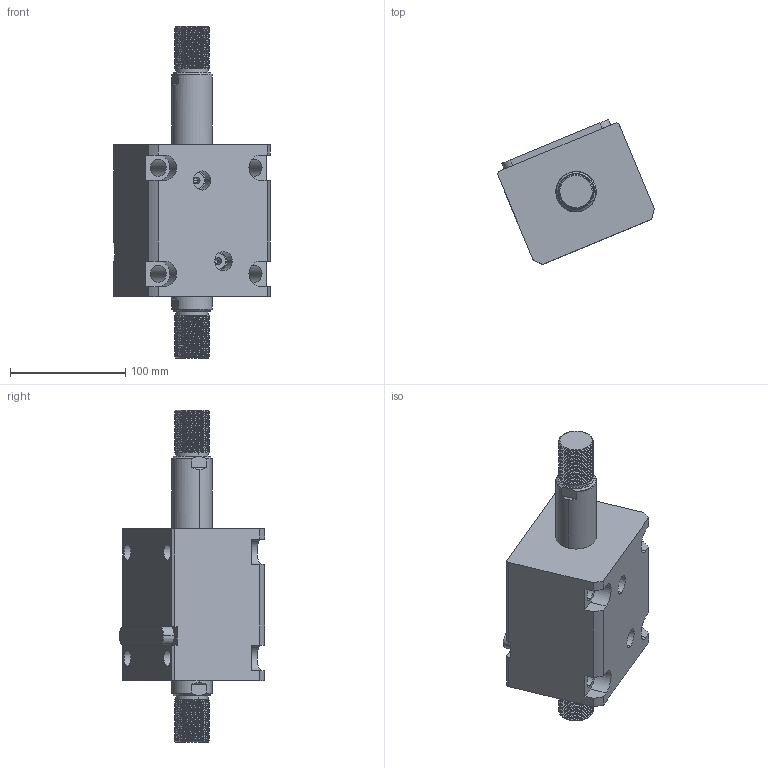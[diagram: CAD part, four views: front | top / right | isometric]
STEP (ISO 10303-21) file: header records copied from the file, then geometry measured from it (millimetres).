
FILE_DESCRIPTION (( 'STEP AP214' ), '1' );
FILE_NAME ('chtb-lw63x50w_asm.STEP', '2018-05-18T08:40:40', ( 'Windows' ), ( 'Microsoft' ), 'SwSTEP 2.0', 'SolidWorks 2015', '' );
FILE_SCHEMA (( 'AUTOMOTIVE_DESIGN' ));
Length unit declared in the file: millimetre
Products named in the file (5): CHTB-SW63X50WHSG; CHTB-LW63X50NBT; CHTB-LA63PJ; CHTB-63QG; chtb-lw63x50w_asm
Assembly tree (4 placements, depth 2):
  chtb-lw63x50w_asm
    CHTB-63QG
    CHTB-LA63PJ
    CHTB-LW63X50NBT
    CHTB-SW63X50WHSG
Bounding box: 135.77 x 126.06 x 288 mm (x, y, z)
Volume: 1276902.2 mm3; surface area: 180882.9 mm2
Topology: 4 solids, 4 shells, 306 faces, 889 edges, 601 vertices
Faces by surface type: cylinder 204, plane 58, bspline 16, cone 16, torus 12
Entity records: 27878 total; most frequent: CARTESIAN_POINT 20531, ORIENTED_EDGE 1770, DIRECTION 1228, EDGE_CURVE 885, VERTEX_POINT 601, AXIS2_PLACEMENT_3D 458, EDGE_LOOP 336, LINE 312
